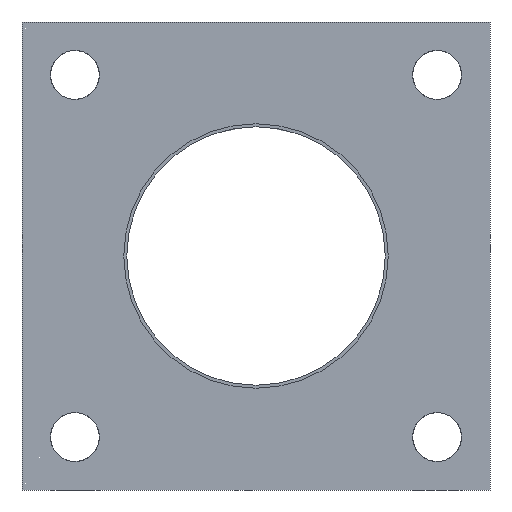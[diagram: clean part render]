
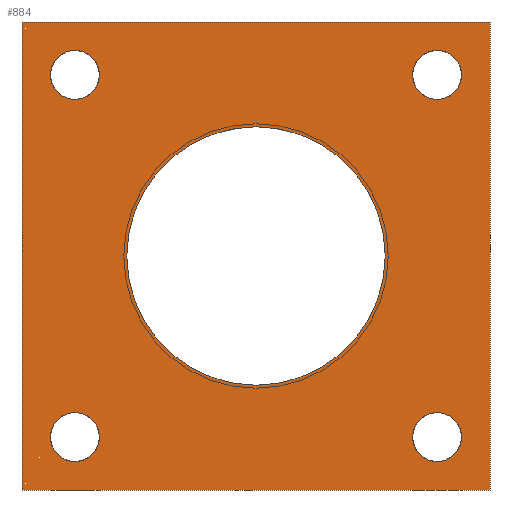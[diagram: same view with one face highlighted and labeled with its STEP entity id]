
A CAD part, front view. The second image highlights one B-rep face of the part: STEP entity #884.
In plain terms, the highlighted planar face has unit normal (0, -1, 0).
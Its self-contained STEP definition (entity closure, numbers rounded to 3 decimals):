
#1=CARTESIAN_POINT('',(0.,0.,0.));
#2=DIRECTION('',(0.,-1.,0.));
#3=DIRECTION('',(1.,0.,0.));
#4=AXIS2_PLACEMENT_3D('',#1,#2,#3);
#6=CARTESIAN_POINT('',(0.,0.,0.));
#7=DIRECTION('',(0.,-1.,0.));
#8=DIRECTION('',(-1.,0.,0.));
#9=AXIS2_PLACEMENT_3D('',#6,#7,#8);
#11=DIRECTION('',(0.,0.,1.));
#12=VECTOR('',#11,115.);
#13=CARTESIAN_POINT('',(-57.5,0.,-57.5));
#14=LINE('',#13,#12);
#15=DIRECTION('',(1.,0.,0.));
#16=VECTOR('',#15,115.);
#17=CARTESIAN_POINT('',(-57.5,0.,57.5));
#18=LINE('',#17,#16);
#19=DIRECTION('',(0.,0.,-1.));
#20=VECTOR('',#19,115.);
#21=CARTESIAN_POINT('',(57.5,0.,57.5));
#22=LINE('',#21,#20);
#23=DIRECTION('',(-1.,0.,0.));
#24=VECTOR('',#23,115.);
#25=CARTESIAN_POINT('',(57.5,0.,-57.5));
#26=LINE('',#25,#24);
#27=CARTESIAN_POINT('',(44.5,0.,-44.5));
#28=DIRECTION('',(0.,-1.,0.));
#29=DIRECTION('',(1.,0.,0.));
#30=AXIS2_PLACEMENT_3D('',#27,#28,#29);
#32=CARTESIAN_POINT('',(44.5,0.,-44.5));
#33=DIRECTION('',(0.,-1.,0.));
#34=DIRECTION('',(-1.,0.,0.));
#35=AXIS2_PLACEMENT_3D('',#32,#33,#34);
#37=CARTESIAN_POINT('',(-44.5,0.,-44.5));
#38=DIRECTION('',(0.,-1.,0.));
#39=DIRECTION('',(0.,0.,-1.));
#40=AXIS2_PLACEMENT_3D('',#37,#38,#39);
#42=CARTESIAN_POINT('',(-44.5,0.,-44.5));
#43=DIRECTION('',(0.,-1.,0.));
#44=DIRECTION('',(0.,0.,1.));
#45=AXIS2_PLACEMENT_3D('',#42,#43,#44);
#47=CARTESIAN_POINT('',(-44.5,0.,44.5));
#48=DIRECTION('',(0.,-1.,0.));
#49=DIRECTION('',(-1.,0.,0.));
#50=AXIS2_PLACEMENT_3D('',#47,#48,#49);
#52=CARTESIAN_POINT('',(-44.5,0.,44.5));
#53=DIRECTION('',(0.,-1.,0.));
#54=DIRECTION('',(1.,0.,0.));
#55=AXIS2_PLACEMENT_3D('',#52,#53,#54);
#57=CARTESIAN_POINT('',(44.5,0.,44.5));
#58=DIRECTION('',(0.,-1.,0.));
#59=DIRECTION('',(0.,0.,1.));
#60=AXIS2_PLACEMENT_3D('',#57,#58,#59);
#62=CARTESIAN_POINT('',(44.5,0.,44.5));
#63=DIRECTION('',(0.,-1.,0.));
#64=DIRECTION('',(0.,0.,-1.));
#65=AXIS2_PLACEMENT_3D('',#62,#63,#64);
#733=CARTESIAN_POINT('',(31.75,0.,0.));
#734=CARTESIAN_POINT('',(-31.75,0.,0.));
#735=VERTEX_POINT('',#733);
#736=VERTEX_POINT('',#734);
#737=CARTESIAN_POINT('',(-57.5,0.,-57.5));
#738=CARTESIAN_POINT('',(-57.5,0.,57.5));
#739=VERTEX_POINT('',#737);
#740=VERTEX_POINT('',#738);
#741=CARTESIAN_POINT('',(57.5,0.,57.5));
#742=VERTEX_POINT('',#741);
#743=CARTESIAN_POINT('',(57.5,0.,-57.5));
#744=VERTEX_POINT('',#743);
#757=CARTESIAN_POINT('',(50.5,0.,-44.5));
#758=CARTESIAN_POINT('',(38.5,0.,-44.5));
#759=VERTEX_POINT('',#757);
#760=VERTEX_POINT('',#758);
#765=CARTESIAN_POINT('',(-44.5,0.,-50.5));
#766=CARTESIAN_POINT('',(-44.5,0.,-38.5));
#767=VERTEX_POINT('',#765);
#768=VERTEX_POINT('',#766);
#773=CARTESIAN_POINT('',(-50.5,0.,44.5));
#774=CARTESIAN_POINT('',(-38.5,0.,44.5));
#775=VERTEX_POINT('',#773);
#776=VERTEX_POINT('',#774);
#781=CARTESIAN_POINT('',(44.5,0.,50.5));
#782=CARTESIAN_POINT('',(44.5,0.,38.5));
#783=VERTEX_POINT('',#781);
#784=VERTEX_POINT('',#782);
#839=CARTESIAN_POINT('',(0.,0.,0.));
#840=DIRECTION('',(0.,1.,0.));
#841=DIRECTION('',(1.,0.,0.));
#842=AXIS2_PLACEMENT_3D('',#839,#840,#841);
#843=PLANE('',#842);
#845=ORIENTED_EDGE('',*,*,#844,.T.);
#847=ORIENTED_EDGE('',*,*,#846,.T.);
#849=ORIENTED_EDGE('',*,*,#848,.T.);
#851=ORIENTED_EDGE('',*,*,#850,.T.);
#852=EDGE_LOOP('',(#845,#847,#849,#851));
#853=FACE_OUTER_BOUND('',#852,.F.);
#855=ORIENTED_EDGE('',*,*,#854,.T.);
#857=ORIENTED_EDGE('',*,*,#856,.T.);
#858=EDGE_LOOP('',(#855,#857));
#859=FACE_BOUND('',#858,.F.);
#861=ORIENTED_EDGE('',*,*,#860,.T.);
#863=ORIENTED_EDGE('',*,*,#862,.T.);
#864=EDGE_LOOP('',(#861,#863));
#865=FACE_BOUND('',#864,.F.);
#867=ORIENTED_EDGE('',*,*,#866,.T.);
#869=ORIENTED_EDGE('',*,*,#868,.T.);
#870=EDGE_LOOP('',(#867,#869));
#871=FACE_BOUND('',#870,.F.);
#873=ORIENTED_EDGE('',*,*,#872,.T.);
#875=ORIENTED_EDGE('',*,*,#874,.T.);
#876=EDGE_LOOP('',(#873,#875));
#877=FACE_BOUND('',#876,.F.);
#879=ORIENTED_EDGE('',*,*,#878,.T.);
#881=ORIENTED_EDGE('',*,*,#880,.T.);
#882=EDGE_LOOP('',(#879,#881));
#883=FACE_BOUND('',#882,.F.);
#884=ADVANCED_FACE('',(#853,#859,#865,#871,#877,#883),#843,.F.);
#5=CIRCLE('',#4,31.75);
#10=CIRCLE('',#9,31.75);
#31=CIRCLE('',#30,6.);
#36=CIRCLE('',#35,6.);
#41=CIRCLE('',#40,6.);
#46=CIRCLE('',#45,6.);
#51=CIRCLE('',#50,6.);
#56=CIRCLE('',#55,6.);
#61=CIRCLE('',#60,6.);
#66=CIRCLE('',#65,6.);
#844=EDGE_CURVE('',#739,#740,#14,.T.);
#846=EDGE_CURVE('',#740,#742,#18,.T.);
#848=EDGE_CURVE('',#742,#744,#22,.T.);
#850=EDGE_CURVE('',#744,#739,#26,.T.);
#854=EDGE_CURVE('',#735,#736,#5,.T.);
#856=EDGE_CURVE('',#736,#735,#10,.T.);
#860=EDGE_CURVE('',#759,#760,#31,.T.);
#862=EDGE_CURVE('',#760,#759,#36,.T.);
#866=EDGE_CURVE('',#767,#768,#41,.T.);
#868=EDGE_CURVE('',#768,#767,#46,.T.);
#872=EDGE_CURVE('',#775,#776,#51,.T.);
#874=EDGE_CURVE('',#776,#775,#56,.T.);
#878=EDGE_CURVE('',#783,#784,#61,.T.);
#880=EDGE_CURVE('',#784,#783,#66,.T.);
